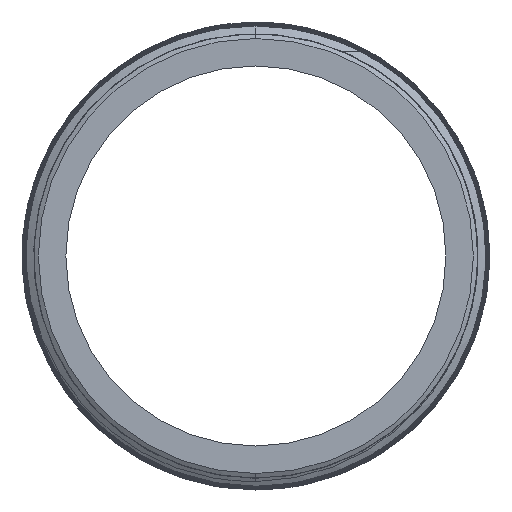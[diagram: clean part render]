
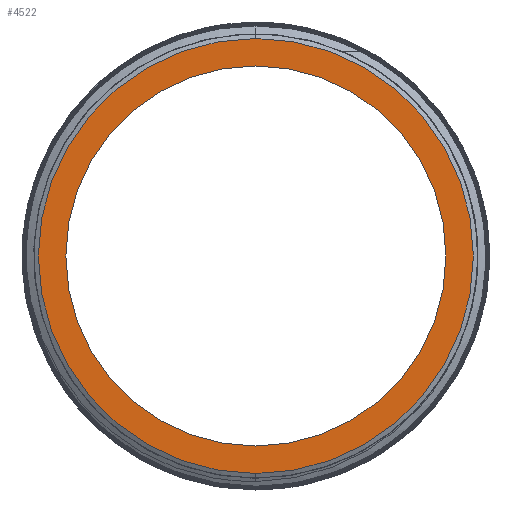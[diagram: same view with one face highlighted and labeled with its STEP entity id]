
A CAD part, left-side view. The second image highlights one B-rep face of the part: STEP entity #4522.
In plain terms, the highlighted planar face has unit normal (-1, 0, 0).
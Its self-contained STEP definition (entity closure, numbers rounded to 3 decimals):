
#646 = AXIS2_PLACEMENT_3D ( 'NONE', #1443, #5834, #10785 ) ;
#648 = AXIS2_PLACEMENT_3D ( 'NONE', #2708, #9641, #820 ) ;
#788 = DIRECTION ( 'NONE',  ( -1., 0., 0. ) ) ;
#820 = DIRECTION ( 'NONE',  ( 0., 0., 1. ) ) ;
#989 = ORIENTED_EDGE ( 'NONE', *, *, #6066, .T. ) ;
#1443 = CARTESIAN_POINT ( 'NONE',  ( -500., 0., 0. ) ) ;
#1459 = ORIENTED_EDGE ( 'NONE', *, *, #4229, .T. ) ;
#1692 = CARTESIAN_POINT ( 'NONE',  ( -500., 0., 0. ) ) ;
#1730 = VERTEX_POINT ( 'NONE', #7798 ) ;
#2565 = ORIENTED_EDGE ( 'NONE', *, *, #7120, .F. ) ;
#2657 = CIRCLE ( 'NONE', #648, 8.65 ) ;
#2708 = CARTESIAN_POINT ( 'NONE',  ( -500., 0., 0. ) ) ;
#3300 = DIRECTION ( 'NONE',  ( 0., 0., 1. ) ) ;
#3839 = VERTEX_POINT ( 'NONE', #3895 ) ;
#3895 = CARTESIAN_POINT ( 'NONE',  ( -500., 0., 8.65 ) ) ;
#3918 = AXIS2_PLACEMENT_3D ( 'NONE', #5873, #788, #3300 ) ;
#4186 = PLANE ( 'NONE',  #5919 ) ;
#4229 = EDGE_CURVE ( 'NONE', #8932, #1730, #7188, .T. ) ;
#4522 = ADVANCED_FACE ( 'NONE', ( #6748, #10226 ), #4186, .F. ) ;
#5040 = DIRECTION ( 'NONE',  ( 1., 0., 0. ) ) ;
#5080 = CARTESIAN_POINT ( 'NONE',  ( -500., 0., -8.65 ) ) ;
#5834 = DIRECTION ( 'NONE',  ( -1., 0., 0. ) ) ;
#5873 = CARTESIAN_POINT ( 'NONE',  ( -500., 0., 0. ) ) ;
#5919 = AXIS2_PLACEMENT_3D ( 'NONE', #9362, #5040, #7650 ) ;
#6066 = EDGE_CURVE ( 'NONE', #1730, #8932, #9921, .T. ) ;
#6176 = VERTEX_POINT ( 'NONE', #5080 ) ;
#6748 = FACE_BOUND ( 'NONE', #9792, .T. ) ;
#6825 = DIRECTION ( 'NONE',  ( -1., 0., 0. ) ) ;
#7120 = EDGE_CURVE ( 'NONE', #6176, #3839, #2657, .T. ) ;
#7188 = CIRCLE ( 'NONE', #3918, 9.9 ) ;
#7650 = DIRECTION ( 'NONE',  ( 0., 0., -1. ) ) ;
#7798 = CARTESIAN_POINT ( 'NONE',  ( -500., 0., -9.9 ) ) ;
#7839 = DIRECTION ( 'NONE',  ( 0., 0., 1. ) ) ;
#8149 = CARTESIAN_POINT ( 'NONE',  ( -500., 0., 9.9 ) ) ;
#8932 = VERTEX_POINT ( 'NONE', #8149 ) ;
#8944 = EDGE_LOOP ( 'NONE', ( #989, #1459 ) ) ;
#9010 = AXIS2_PLACEMENT_3D ( 'NONE', #1692, #6825, #7839 ) ;
#9362 = CARTESIAN_POINT ( 'NONE',  ( -500., 8.65, 0. ) ) ;
#9641 = DIRECTION ( 'NONE',  ( -1., 0., 0. ) ) ;
#9792 = EDGE_LOOP ( 'NONE', ( #10903, #2565 ) ) ;
#9888 = EDGE_CURVE ( 'NONE', #3839, #6176, #11021, .T. ) ;
#9921 = CIRCLE ( 'NONE', #646, 9.9 ) ;
#10226 = FACE_OUTER_BOUND ( 'NONE', #8944, .T. ) ;
#10785 = DIRECTION ( 'NONE',  ( 0., 0., 1. ) ) ;
#10903 = ORIENTED_EDGE ( 'NONE', *, *, #9888, .F. ) ;
#11021 = CIRCLE ( 'NONE', #9010, 8.65 ) ;
